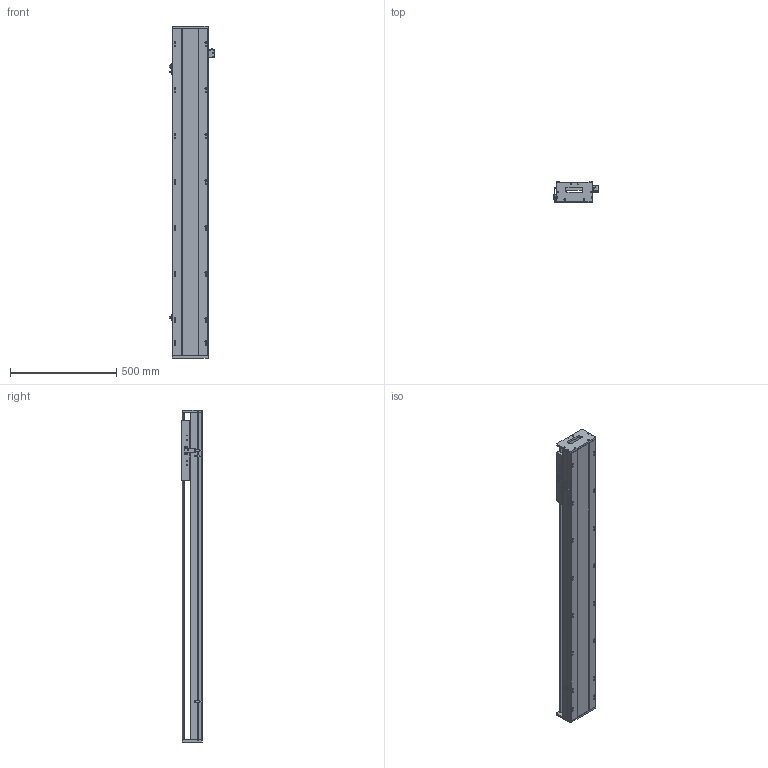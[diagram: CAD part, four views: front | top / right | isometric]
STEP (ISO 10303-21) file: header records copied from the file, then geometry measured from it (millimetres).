
FILE_DESCRIPTION (( 'STEP AP203' ), '1' );
FILE_NAME ('SKR17S-C2-S1180（简）.STEP', '2022-09-29T08:01:22', ( '' ), ( '' ), 'SwSTEP 2.0', 'SolidWorks 2018', '' );
FILE_SCHEMA (( 'CONFIG_CONTROL_DESIGN' ));
Length unit declared in the file: millimetre
Products named in the file (8): 感应片（SKR12S-14S-17S）; SKR17耜啣; EE-SX672; SKR17底座-C2-S1180（简); SKR17滑台-280L（简）; 棠掑假蚾輸; SIKO棠掑; SKR17S-C2-S1180（简）
Assembly tree (10 placements, depth 2):
  SKR17S-C2-S1180（简）
    SKR17底座-C2-S1180（简)
    SIKO棠掑
    EE-SX672  x3
    SKR17耜啣  x2
    棠掑假蚾輸
    SKR17滑台-280L（简）
    感应片（SKR12S-14S-17S）
Bounding box: 212.7 x 97 x 1560 mm (x, y, z)
Volume: 12516870.5 mm3; surface area: 1563025.2 mm2
Topology: 11 solids, 11 shells, 1192 faces, 3311 edges, 2125 vertices
Faces by surface type: cylinder 571, plane 495, cone 126
Entity records: 36131 total; most frequent: CARTESIAN_POINT 9279, ORIENTED_EDGE 5618, DIRECTION 5225, EDGE_CURVE 2809, AXIS2_PLACEMENT_3D 1855, VERTEX_POINT 1829, LINE 1515, VECTOR 1515
